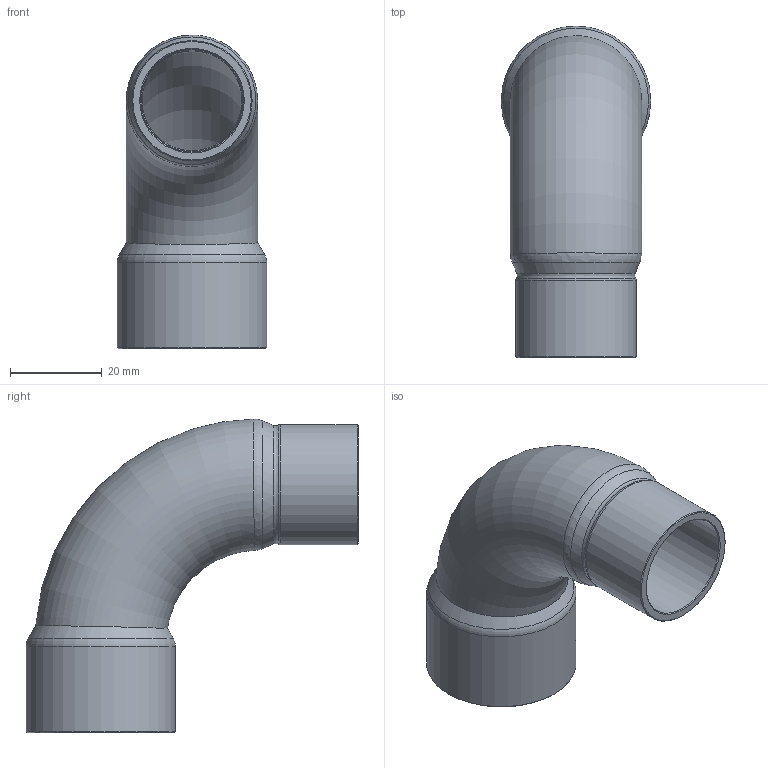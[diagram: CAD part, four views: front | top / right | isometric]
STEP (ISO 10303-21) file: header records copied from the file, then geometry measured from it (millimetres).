
FILE_DESCRIPTION((''),'2;1');
FILE_NAME('G:\SANHA-Ternat\Technik\Management\Bouwmaten + markeringen\z-maattekeningen 3D\29000s\29000s_gem\29002AR11878_gem.stp','2020-03-27T08:43:52',('vdvijverd'),(''),'Autodesk Inventor 2009','Autodesk Inventor 2009','');
FILE_SCHEMA(('AUTOMOTIVE_DESIGN { 1 0 10303 214 1 1 1 1 }'));
Length unit declared in the file: millimetre
Products named in the file (1): 29002AR11878_gem
Bounding box: 32.52 x 72.24 x 68.27 mm (x, y, z)
Volume: 15484.8 mm3; surface area: 16602.8 mm2
Topology: 1 solids, 1 shells, 24 faces, 50 edges, 28 vertices
Faces by surface type: cone 8, bspline 5, torus 5, cylinder 4, plane 2
Full cylindrical faces by diameter (mm): 22.375 x1, 26.175 x1, 28.725 x1, 32.525 x1
Entity records: 1489 total; most frequent: CARTESIAN_POINT 1074, DIRECTION 80, ORIENTED_EDGE 52, EDGE_LOOP 46, AXIS2_PLACEMENT_3D 40, EDGE_CURVE 26, VERTEX_POINT 24, FACE_OUTER_BOUND 24
